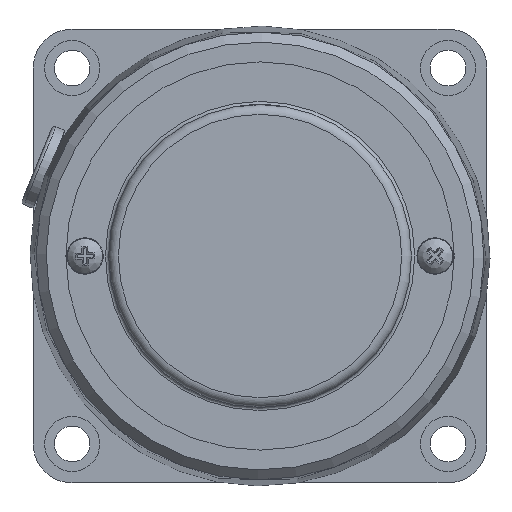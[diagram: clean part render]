
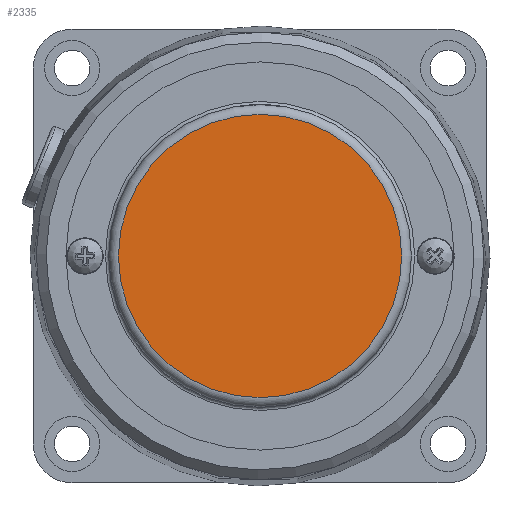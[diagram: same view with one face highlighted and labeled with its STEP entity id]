
A CAD part, left-side view. The second image highlights one B-rep face of the part: STEP entity #2335.
In plain terms, the highlighted planar face has unit normal (-1, 0, 0).
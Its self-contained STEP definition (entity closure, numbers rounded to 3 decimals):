
#2312=CARTESIAN_POINT('',(-50.5,-21.85,0.));
#2313=VERTEX_POINT('',#2312);
#2314=CARTESIAN_POINT('',(-50.5,0.,0.));
#2315=DIRECTION('',(1.0,0.0,0.0));
#2316=DIRECTION('',(0.0,1.0,0.0));
#2317=AXIS2_PLACEMENT_3D('',#2314,#2315,#2316);
#2318=CIRCLE('',#2317,21.85);
#2319=EDGE_CURVE('',#2313,#2313,#2318,.T.);
#2327=CARTESIAN_POINT('',(-50.5,0.,0.));
#2328=DIRECTION('',(1.0,0.0,0.0));
#2329=DIRECTION('',(0.0,1.0,0.0));
#2330=AXIS2_PLACEMENT_3D('',#2327,#2328,#2329);
#2331=PLANE('',#2330);
#2332=ORIENTED_EDGE('',*,*,#2319,.F.);
#2333=EDGE_LOOP('',(#2332));
#2334=FACE_OUTER_BOUND('',#2333,.T.);
#2335=ADVANCED_FACE('',(#2334),#2331,.F.);
